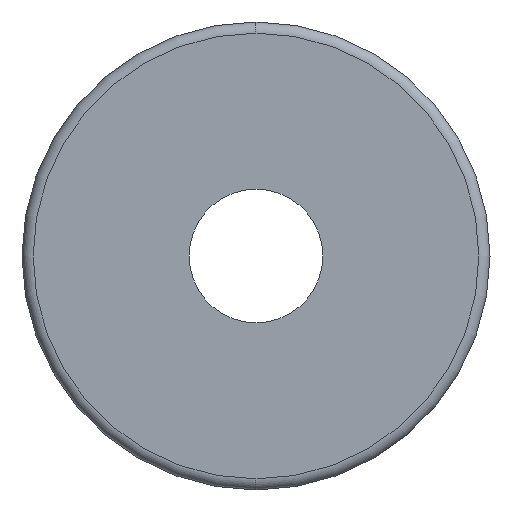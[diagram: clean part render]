
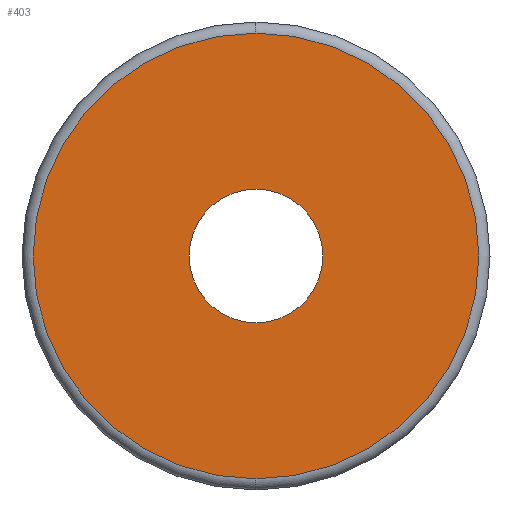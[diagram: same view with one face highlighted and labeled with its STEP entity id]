
A CAD part, left-side view. The second image highlights one B-rep face of the part: STEP entity #403.
In plain terms, the highlighted planar face has unit normal (-1, 0, 0).
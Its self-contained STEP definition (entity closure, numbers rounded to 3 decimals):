
#17 = VERTEX_POINT ( 'NONE', #146 ) ;
#40 = ORIENTED_EDGE ( 'NONE', *, *, #177, .T. ) ;
#49 = EDGE_LOOP ( 'NONE', ( #40, #74 ) ) ;
#59 = CIRCLE ( 'NONE', #379, 6. ) ;
#61 = AXIS2_PLACEMENT_3D ( 'NONE', #65, #352, #221 ) ;
#64 = EDGE_CURVE ( 'NONE', #374, #17, #372, .T. ) ;
#65 = CARTESIAN_POINT ( 'NONE',  ( 0., 6., 0. ) ) ;
#67 = DIRECTION ( 'NONE',  ( -1., 0., 0. ) ) ;
#74 = ORIENTED_EDGE ( 'NONE', *, *, #64, .T. ) ;
#75 = DIRECTION ( 'NONE',  ( 0., 0., 1. ) ) ;
#105 = EDGE_CURVE ( 'NONE', #222, #324, #59, .T. ) ;
#106 = CIRCLE ( 'NONE', #244, 6. ) ;
#116 = CARTESIAN_POINT ( 'NONE',  ( 0., 0., 0. ) ) ;
#138 = CARTESIAN_POINT ( 'NONE',  ( 0., 0., 0. ) ) ;
#146 = CARTESIAN_POINT ( 'NONE',  ( 0., 0., -20. ) ) ;
#152 = DIRECTION ( 'NONE',  ( 0., 0., -1. ) ) ;
#163 = CARTESIAN_POINT ( 'NONE',  ( 0., 0., 0. ) ) ;
#166 = DIRECTION ( 'NONE',  ( -1., 0., 0. ) ) ;
#177 = EDGE_CURVE ( 'NONE', #17, #374, #288, .T. ) ;
#178 = FACE_OUTER_BOUND ( 'NONE', #49, .T. ) ;
#190 = CARTESIAN_POINT ( 'NONE',  ( 0., 0., 6. ) ) ;
#219 = AXIS2_PLACEMENT_3D ( 'NONE', #163, #166, #152 ) ;
#221 = DIRECTION ( 'NONE',  ( 0., 0., -1. ) ) ;
#222 = VERTEX_POINT ( 'NONE', #190 ) ;
#224 = DIRECTION ( 'NONE',  ( 0., 0., -1. ) ) ;
#239 = PLANE ( 'NONE',  #61 ) ;
#242 = DIRECTION ( 'NONE',  ( -1., 0., 0. ) ) ;
#244 = AXIS2_PLACEMENT_3D ( 'NONE', #366, #412, #386 ) ;
#260 = FACE_BOUND ( 'NONE', #350, .T. ) ;
#265 = AXIS2_PLACEMENT_3D ( 'NONE', #138, #242, #224 ) ;
#288 = CIRCLE ( 'NONE', #219, 20. ) ;
#300 = ORIENTED_EDGE ( 'NONE', *, *, #105, .F. ) ;
#302 = EDGE_CURVE ( 'NONE', #324, #222, #106, .T. ) ;
#312 = ORIENTED_EDGE ( 'NONE', *, *, #302, .F. ) ;
#324 = VERTEX_POINT ( 'NONE', #381 ) ;
#346 = CARTESIAN_POINT ( 'NONE',  ( 0., 0., 20. ) ) ;
#350 = EDGE_LOOP ( 'NONE', ( #300, #312 ) ) ;
#352 = DIRECTION ( 'NONE',  ( 1., 0., 0. ) ) ;
#366 = CARTESIAN_POINT ( 'NONE',  ( 0., 0., 0. ) ) ;
#372 = CIRCLE ( 'NONE', #265, 20. ) ;
#374 = VERTEX_POINT ( 'NONE', #346 ) ;
#379 = AXIS2_PLACEMENT_3D ( 'NONE', #116, #67, #75 ) ;
#381 = CARTESIAN_POINT ( 'NONE',  ( 0., 0., -6. ) ) ;
#386 = DIRECTION ( 'NONE',  ( 0., 0., 1. ) ) ;
#403 = ADVANCED_FACE ( 'NONE', ( #178, #260 ), #239, .F. ) ;
#412 = DIRECTION ( 'NONE',  ( -1., 0., 0. ) ) ;
